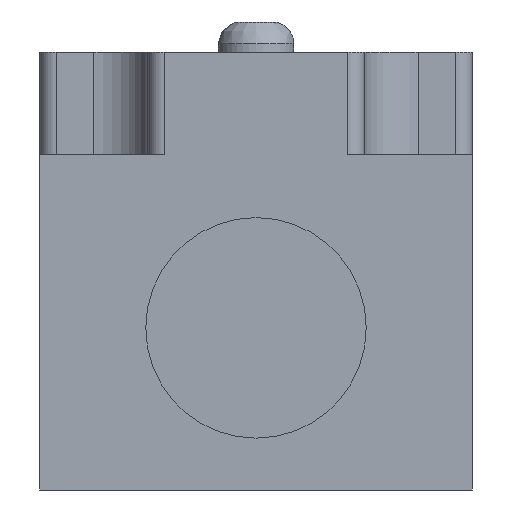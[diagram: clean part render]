
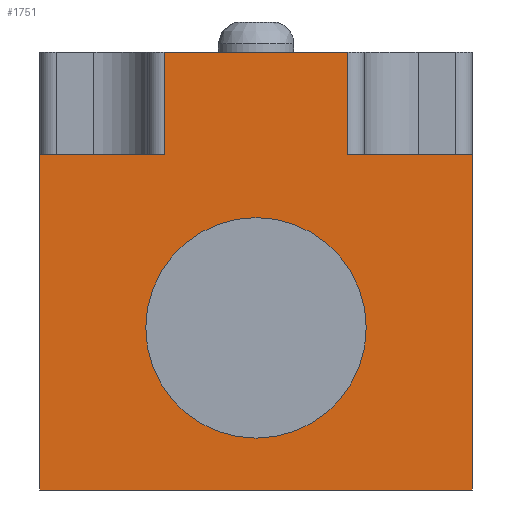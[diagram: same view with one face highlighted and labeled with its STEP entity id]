
A CAD part, front view. The second image highlights one B-rep face of the part: STEP entity #1751.
In plain terms, the highlighted planar face has unit normal (0, -1, 0).
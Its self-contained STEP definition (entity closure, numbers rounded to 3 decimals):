
#112=CARTESIAN_POINT('',(10.2,0.0,-16.0));
#113=VERTEX_POINT('',#112);
#114=CARTESIAN_POINT('',(0.0,0.0,-16.0));
#115=DIRECTION('',(0.0,1.0,0.0));
#116=DIRECTION('',(1.0,0.0,0.0));
#117=AXIS2_PLACEMENT_3D('',#114,#115,#116);
#118=CIRCLE('',#117,10.2);
#119=EDGE_CURVE('',#113,#113,#118,.T.);
#964=CARTESIAN_POINT('',(8.5,0.0,9.5));
#965=VERTEX_POINT('',#964);
#973=CARTESIAN_POINT('',(8.5,0.0,0.0));
#974=VERTEX_POINT('',#973);
#975=CARTESIAN_POINT('',(8.5,0.0,0.0));
#976=DIRECTION('',(0.0,0.0,1.0));
#977=VECTOR('',#976,9.5);
#978=LINE('',#975,#977);
#979=EDGE_CURVE('',#974,#965,#978,.T.);
#997=CARTESIAN_POINT('',(-8.5,0.0,9.5));
#998=VERTEX_POINT('',#997);
#1016=CARTESIAN_POINT('',(-8.5,0.0,0.0));
#1017=VERTEX_POINT('',#1016);
#1025=CARTESIAN_POINT('',(-8.5,0.0,0.0));
#1026=DIRECTION('',(0.0,0.0,1.0));
#1027=VECTOR('',#1026,9.5);
#1028=LINE('',#1025,#1027);
#1029=EDGE_CURVE('',#1017,#998,#1028,.T.);
#1064=CARTESIAN_POINT('',(8.5,0.0,9.5));
#1065=DIRECTION('',(-1.0,0.0,0.0));
#1066=VECTOR('',#1065,17.);
#1067=LINE('',#1064,#1066);
#1068=EDGE_CURVE('',#965,#998,#1067,.T.);
#1119=CARTESIAN_POINT('',(20.,0.0,0.0));
#1120=VERTEX_POINT('',#1119);
#1121=CARTESIAN_POINT('',(8.5,0.0,0.0));
#1122=DIRECTION('',(1.0,0.0,0.0));
#1123=VECTOR('',#1122,11.5);
#1124=LINE('',#1121,#1123);
#1125=EDGE_CURVE('',#974,#1120,#1124,.T.);
#1178=CARTESIAN_POINT('',(-20.,0.0,0.0));
#1179=VERTEX_POINT('',#1178);
#1186=CARTESIAN_POINT('',(-20.,0.0,0.0));
#1187=DIRECTION('',(1.0,0.0,0.0));
#1188=VECTOR('',#1187,11.5);
#1189=LINE('',#1186,#1188);
#1190=EDGE_CURVE('',#1179,#1017,#1189,.T.);
#1674=CARTESIAN_POINT('',(-20.,0.0,-31.0));
#1675=VERTEX_POINT('',#1674);
#1682=CARTESIAN_POINT('',(-20.,0.0,0.0));
#1683=DIRECTION('',(0.0,0.0,-1.0));
#1684=VECTOR('',#1683,31.0);
#1685=LINE('',#1682,#1684);
#1686=EDGE_CURVE('',#1179,#1675,#1685,.T.);
#1721=CARTESIAN_POINT('',(8.5,0.0,0.0));
#1722=DIRECTION('',(0.0,-1.0,0.0));
#1723=DIRECTION('',(0.0,0.0,-1.0));
#1724=AXIS2_PLACEMENT_3D('',#1721,#1722,#1723);
#1725=PLANE('',#1724);
#1726=CARTESIAN_POINT('',(20.,0.0,-31.0));
#1727=VERTEX_POINT('',#1726);
#1728=CARTESIAN_POINT('',(-20.,0.0,-31.0));
#1729=DIRECTION('',(1.0,0.0,0.0));
#1730=VECTOR('',#1729,40.);
#1731=LINE('',#1728,#1730);
#1732=EDGE_CURVE('',#1675,#1727,#1731,.T.);
#1733=ORIENTED_EDGE('',*,*,#1732,.T.);
#1734=CARTESIAN_POINT('',(20.,0.0,0.0));
#1735=DIRECTION('',(0.0,0.0,-1.0));
#1736=VECTOR('',#1735,31.0);
#1737=LINE('',#1734,#1736);
#1738=EDGE_CURVE('',#1120,#1727,#1737,.T.);
#1739=ORIENTED_EDGE('',*,*,#1738,.F.);
#1740=ORIENTED_EDGE('',*,*,#1125,.F.);
#1741=ORIENTED_EDGE('',*,*,#979,.T.);
#1742=ORIENTED_EDGE('',*,*,#1068,.T.);
#1743=ORIENTED_EDGE('',*,*,#1029,.F.);
#1744=ORIENTED_EDGE('',*,*,#1190,.F.);
#1745=ORIENTED_EDGE('',*,*,#1686,.T.);
#1746=EDGE_LOOP('',(#1733,#1739,#1740,#1741,#1742,#1743,#1744,#1745));
#1747=FACE_OUTER_BOUND('',#1746,.T.);
#1748=ORIENTED_EDGE('',*,*,#119,.T.);
#1749=EDGE_LOOP('',(#1748));
#1750=FACE_BOUND('',#1749,.T.);
#1751=ADVANCED_FACE('',(#1747,#1750),#1725,.T.);
